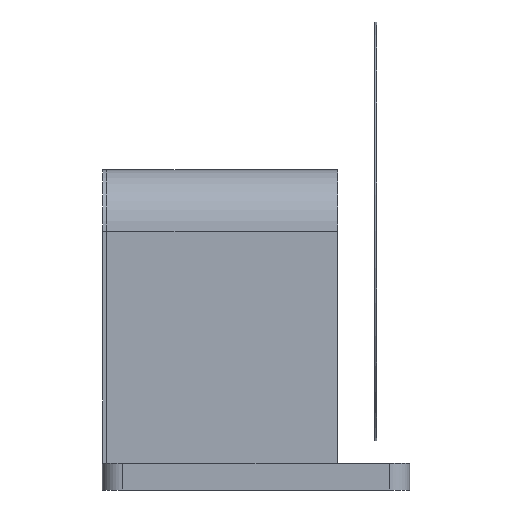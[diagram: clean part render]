
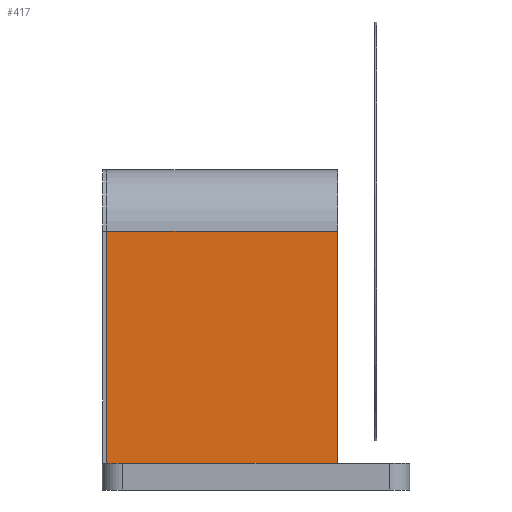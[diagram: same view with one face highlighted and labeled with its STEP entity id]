
A CAD part, left-side view. The second image highlights one B-rep face of the part: STEP entity #417.
In plain terms, the highlighted planar face has unit normal (-1, 0, 0).
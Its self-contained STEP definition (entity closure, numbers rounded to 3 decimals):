
#284=PLANE('',#3554);
#417=ADVANCED_FACE('',(#663),#284,.T.);
#663=FACE_OUTER_BOUND('',#874,.T.);
#874=EDGE_LOOP('',(#1932,#1933,#1934,#1935));
#1166=LINE('',#5237,#1424);
#1167=LINE('',#5240,#1425);
#1168=LINE('',#5242,#1426);
#1169=LINE('',#5244,#1427);
#1424=VECTOR('',#4233,1.);
#1425=VECTOR('',#4234,1.);
#1426=VECTOR('',#4235,1.);
#1427=VECTOR('',#4236,1.);
#1932=ORIENTED_EDGE('',*,*,#2974,.T.);
#1933=ORIENTED_EDGE('',*,*,#2975,.T.);
#1934=ORIENTED_EDGE('',*,*,#2976,.T.);
#1935=ORIENTED_EDGE('',*,*,#2977,.T.);
#2620=VERTEX_POINT('',#5238);
#2621=VERTEX_POINT('',#5239);
#2622=VERTEX_POINT('',#5241);
#2623=VERTEX_POINT('',#5243);
#2974=EDGE_CURVE('',#2620,#2621,#1166,.T.);
#2975=EDGE_CURVE('',#2621,#2622,#1167,.T.);
#2976=EDGE_CURVE('',#2622,#2623,#1168,.T.);
#2977=EDGE_CURVE('',#2623,#2620,#1169,.T.);
#3554=AXIS2_PLACEMENT_3D('',#5245,#4237,#4238);
#4233=DIRECTION('',(0.,0.,-1.));
#4234=DIRECTION('',(0.,-1.,0.));
#4235=DIRECTION('',(0.,0.,1.));
#4236=DIRECTION('',(0.,1.,0.));
#4237=DIRECTION('',(-1.,0.,0.));
#4238=DIRECTION('',(0.,0.,1.));
#5237=CARTESIAN_POINT('',(823.612,-1171.139,-2.8));
#5238=CARTESIAN_POINT('',(823.612,-1171.139,56.2));
#5239=CARTESIAN_POINT('',(823.612,-1171.139,-2.8));
#5240=CARTESIAN_POINT('',(823.612,-1171.139,-2.8));
#5241=CARTESIAN_POINT('',(823.612,-1227.139,-2.8));
#5242=CARTESIAN_POINT('',(823.612,-1227.139,-2.8));
#5243=CARTESIAN_POINT('',(823.612,-1227.139,56.2));
#5244=CARTESIAN_POINT('',(823.612,-1171.139,56.2));
#5245=CARTESIAN_POINT('',(823.612,-1171.139,-2.8));
